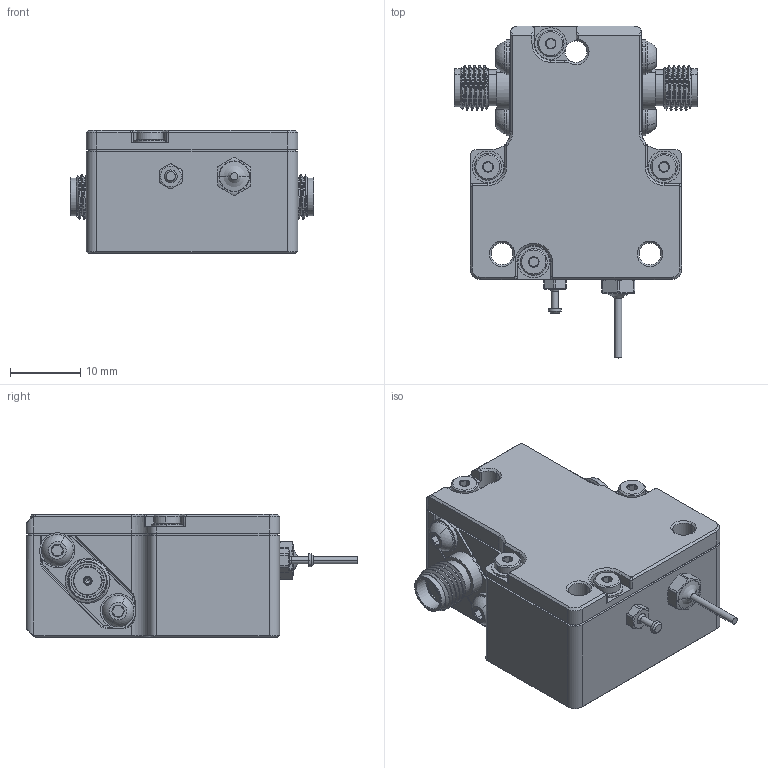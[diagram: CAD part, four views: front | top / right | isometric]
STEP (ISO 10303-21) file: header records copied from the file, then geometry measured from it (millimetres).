
FILE_DESCRIPTION (( 'STEP AP203' ), '1' );
FILE_NAME ('AMST-05S ASSEMBLY FILLED ASSEMBLY.STEP', '2026-07-29T19:55:32', ( '' ), ( '' ), 'SwSTEP 2.0', 'SolidWorks 2024', '' );
FILE_SCHEMA (( 'CONFIG_CONTROL_DESIGN' ));
Length unit declared in the file: inch
Products named in the file (12): HRM-303S; 400-0076-00, MAIN ENCLOSURE_400-0076-00; 1595-1; 98689A111; 400-0077-00, TOP COVER_400-0077-00; AMST-05S ASSEMBLY FILLED ASSEMBLY; 93925A210_TYPE 18-8 SS INTERNAL-TOOTH LOCK WASHER_93925A210; 92855A837_18-8 SS LOW-PROFILE SCKT HEAD SCREWS_92855A837; M3L153B; 490-0003-00, LABEL_490-0003-00; AMST-05, ASSEMBLY; 92095A458_BUTTON HEAD HEX DRIVE SCREW_92095A458
Assembly tree (24 placements, depth 3):
  AMST-05S ASSEMBLY FILLED ASSEMBLY
    AMST-05, ASSEMBLY
      400-0076-00, MAIN ENCLOSURE_400-0076-00
      400-0077-00, TOP COVER_400-0077-00
      490-0003-00, LABEL_490-0003-00
      HRM-303S  x2
      M3L153B
      1595-1
      92855A837_18-8 SS LOW-PROFILE SCKT HEAD SCREWS_92855A837  x4
      92095A458_BUTTON HEAD HEX DRIVE SCREW_92095A458  x4
      98689A111  x4
      93925A210_TYPE 18-8 SS INTERNAL-TOOTH LOCK WASHER_93925A210  x4
Bounding box: 34.5 x 47.12 x 17.55 mm (x, y, z)
Volume: 11853.1 mm3; surface area: 10702.5 mm2
Topology: 23 solids, 23 shells, 2656 faces, 7149 edges, 4628 vertices
Faces by surface type: plane 1321, cylinder 749, bspline 335, cone 227, torus 16, sphere 8
Entity records: 65163 total; most frequent: CARTESIAN_POINT 26558, ORIENTED_EDGE 8270, DIRECTION 6775, EDGE_CURVE 4135, VECTOR 2767, LINE 2767, VERTEX_POINT 2693, AXIS2_PLACEMENT_3D 2004
